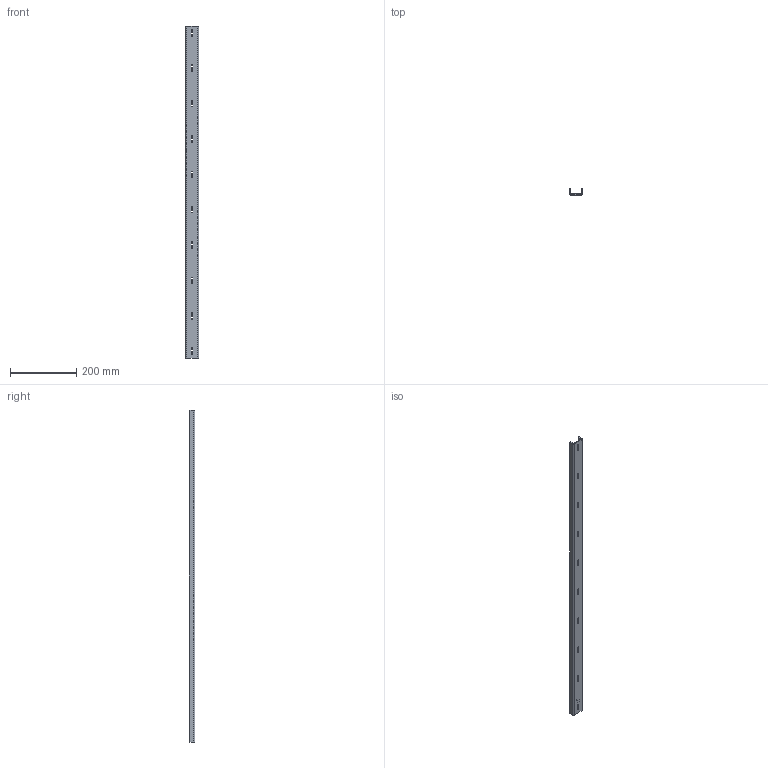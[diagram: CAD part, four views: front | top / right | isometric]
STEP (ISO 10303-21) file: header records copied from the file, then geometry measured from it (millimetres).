
FILE_DESCRIPTION (( 'STEP AP214' ), '1' );
FILE_NAME ('E441-1000.STEP', '2022-05-20T09:21:30', ( '' ), ( '' ), 'SwSTEP 2.0', 'SolidWorks 2019', '' );
FILE_SCHEMA (( 'AUTOMOTIVE_DESIGN' ));
Length unit declared in the file: millimetre
Products named in the file (1): E441-1000
Bounding box: 40 x 17 x 1000 mm (x, y, z)
Volume: 195991.1 mm3; surface area: 138507.5 mm2
Topology: 1 solids, 1 shells, 110 faces, 312 edges, 208 vertices
Faces by surface type: plane 72, cylinder 34, bspline 4
Entity records: 3704 total; most frequent: CARTESIAN_POINT 731, ORIENTED_EDGE 624, DIRECTION 586, EDGE_CURVE 312, VECTOR 236, LINE 236, VERTEX_POINT 208, AXIS2_PLACEMENT_3D 175
